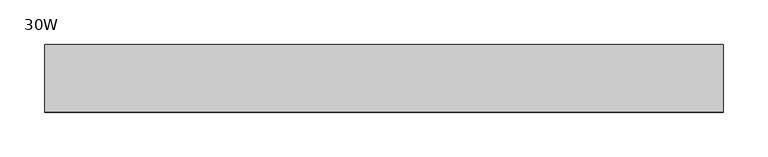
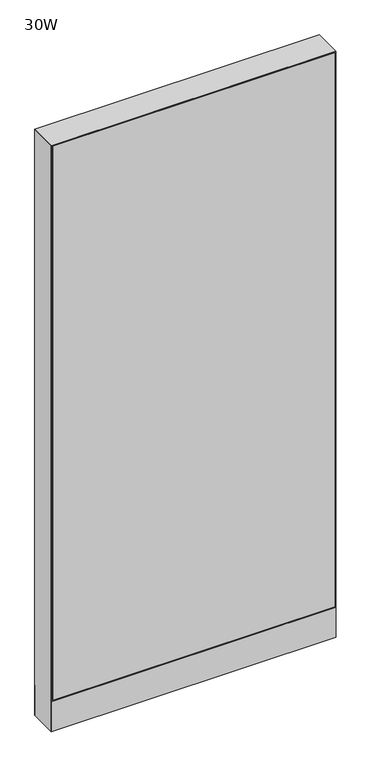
"""IFC4 building model written with IfcOpenShell, lengths in millimetres: furniture geometry, Steelcase - Montage - Frame - 65H - Enhanced Monolithic - Base Cavity : 30W."""

from ifc_helpers import new_model, si_unit, point, frame, frame_2d, origin, origin_with_axes, place, context, project, spatial, polyline, circle_curve, trimmed, segment, composite_curve, outline, extrude, faceted_brep, source, transform, mapped, element, save


def furniture_30w_fd134ff3(model_context):
    return source(origin(), model_context, "Body", "SolidModel", [
        extrude(outline(polyline([(3.175, 31.7500194), (3.175, 38.1000194), (758.825, 38.1000194), (758.825, 31.7500194), (3.175, 31.7500194)])), frame((0.0, 0.0, 92.075), z_axis=(0.0, 0.0, 1.0), x_axis=(1.0, 0.0, 0.0)), (0.0, 0.0, 1.0), 1565.275),
        extrude(outline(polyline([(3.175, -31.7500194), (758.825, -31.7500194), (758.825, -38.1000194), (3.175, -38.1000194), (3.175, -31.7500194)])), frame((0.0, 0.0, 92.075), z_axis=(0.0, 0.0, 1.0), x_axis=(1.0, 0.0, 0.0)), (0.0, 0.0, 1.0), 1565.275),
        extrude(outline(polyline([(6.350003, -31.7499985), (755.649997, -31.7499985), (762.0, -38.1000015), (0.0, -38.1000015), (6.350003, -31.7499985)])), frame((0.0, 0.0, 4.064), z_axis=(0.0, 0.0, 1.0), x_axis=(1.0, 0.0, 0.0)), (0.0, 0.0, 1.0), 84.835997),
        extrude(outline(polyline([(6.3500002, 31.7500017), (0.0, 38.1000015), (762.0, 38.1000015), (755.6500002, 31.7500017), (6.3500002, 31.7500017)])), frame((0.0, 0.0, 4.064), z_axis=(0.0, 0.0, 1.0), x_axis=(1.0, 0.0, 0.0)), (0.0, 0.0, 1.0), 84.835997),
        faceted_brep([(762.0, -38.1000015, 1660.525), (0.0, -38.1000015, 1660.525), (6.3500484, -31.749953, 1654.1749516), (755.6499516, -31.749953, 1654.1749516), (6.3500484, 31.749953, 1654.1749516), (755.6499516, 31.749953, 1654.1749516), (0.0, 38.1000015, 1660.525), (762.0, 38.1000015, 1660.525)], [[[0, 1, 2, 3]], [[3, 2, 4, 5]], [[6, 7, 5, 4]], [[1, 0, 7, 6]], [[2, 1, 6, 4]], [[0, 3, 5, 7]]]),
        extrude(outline(composite_curve([segment(trimmed(circle_curve(frame_2d((44.45, 0.0)), 15.24), [point((29.21, 0.0))], [point((59.69, 0.0))], False, "CARTESIAN"), True, "CONTINUOUS"), segment(trimmed(circle_curve(frame_2d((44.45, 0.0)), 15.24), [point((59.69, 0.0))], [point((29.21, 0.0))], False, "CARTESIAN"), True, "CONTINUOUS")], self_intersect=False)), origin_with_axes(), (0.0, 0.0, 1.0), 4.064),
        extrude(outline(composite_curve([segment(trimmed(circle_curve(frame_2d((717.55, 0.0)), 15.24), [point((702.31, 0.0))], [point((732.79, 0.0))], False, "CARTESIAN"), True, "CONTINUOUS"), segment(trimmed(circle_curve(frame_2d((717.55, 0.0)), 15.24), [point((732.79, 0.0))], [point((702.31, 0.0))], False, "CARTESIAN"), True, "CONTINUOUS")], self_intersect=False)), origin_with_axes(), (0.0, 0.0, 1.0), 4.064),
        faceted_brep([(762.0, -38.1000106, 4.064), (762.0, 38.1000015, 4.064), (762.0, 38.1000015, 1660.525), (762.0, -38.1000106, 1660.5249637), (0.0, 38.1000015, 4.064), (0.0, -38.1000015, 4.064), (0.0, -38.1000015, 1660.525), (0.0, 38.1000015, 1660.525), (755.6499879, 31.7500017, 606.425), (6.35, 31.7500017, 606.425), (6.3499998, 31.7500017, 619.125), (755.6499879, 31.7500017, 619.125), (6.35, -31.7499985, 619.125), (755.6499879, -31.7499985, 619.125), (6.350003, -31.7499985, 606.425), (755.6499879, -31.7499985, 606.425), (755.6499879, 31.7500017, 1130.3), (6.35, 31.7500017, 1130.3), (6.3499998, 31.7500017, 1143.0), (755.6499879, 31.7500017, 1143.0), (6.35, -31.7499985, 1143.0), (755.6499879, -31.7499985, 1143.0), (6.350003, -31.7499985, 1130.3), (755.6499879, -31.7499985, 1130.3), (6.35, 31.7500015, 4.064), (6.35, -31.7500015, 4.064), (755.6499879, 31.7499894, 4.064), (755.6499879, -31.7499985, 4.064), (6.35, 31.7500015, 1654.175), (6.35, -31.7500015, 1654.175), (755.6499879, -31.7499985, 1654.1749516), (755.6499879, 31.7499895, 1654.1749516)], [[[0, 1, 2, 3]], [[4, 5, 6, 7]], [[8, 9, 10, 11]], [[11, 10, 12, 13]], [[13, 12, 14, 15]], [[9, 8, 15, 14]], [[16, 17, 18, 19]], [[19, 18, 20, 21]], [[21, 20, 22, 23]], [[17, 16, 23, 22]], [[24, 25, 5, 4]], [[26, 1, 0, 27]], [[24, 4, 7, 28, 18, 17, 10, 9]], [[5, 25, 14, 12, 22, 20, 29, 6]], [[20, 18, 28, 29]], [[25, 24, 9, 14]], [[10, 17, 22, 12]], [[19, 21, 30, 31]], [[26, 27, 15, 8]], [[16, 11, 13, 23]], [[27, 0, 3, 30, 21, 23, 13, 15]], [[1, 26, 8, 11, 16, 19, 31, 2]], [[7, 6, 29, 28]], [[3, 2, 31, 30]]]),
    ])


if __name__ == "__main__":
    model = new_model("IFC4")
    model_context = context("Model", 3, world=origin())
    ifc_project = project(units=[si_unit("LENGTHUNIT", "METRE", prefix="MILLI")], contexts=[model_context])
    site = spatial("IfcSite", under=ifc_project)
    building = spatial("IfcBuilding", under=site)
    placement = place(None, origin())
    furniture_30w_shape = furniture_30w_fd134ff3(model_context)
    element("IfcFurniture", 1, ObjectType="Steelcase - Montage - Frame - 65H - Enhanced Monolithic - Base Cavity : 30W", at=placement, inside=building, context=model_context, shape_type="MappedRepresentation", body=[
        mapped(furniture_30w_shape, transform((0.0, 0.0, 0.0), x_axis=(1.0, 0.0, 0.0), y_axis=(0.0, 1.0, 0.0), z_axis=(0.0, 0.0, 1.0))),
    ])
    save(model, "model.ifc")
